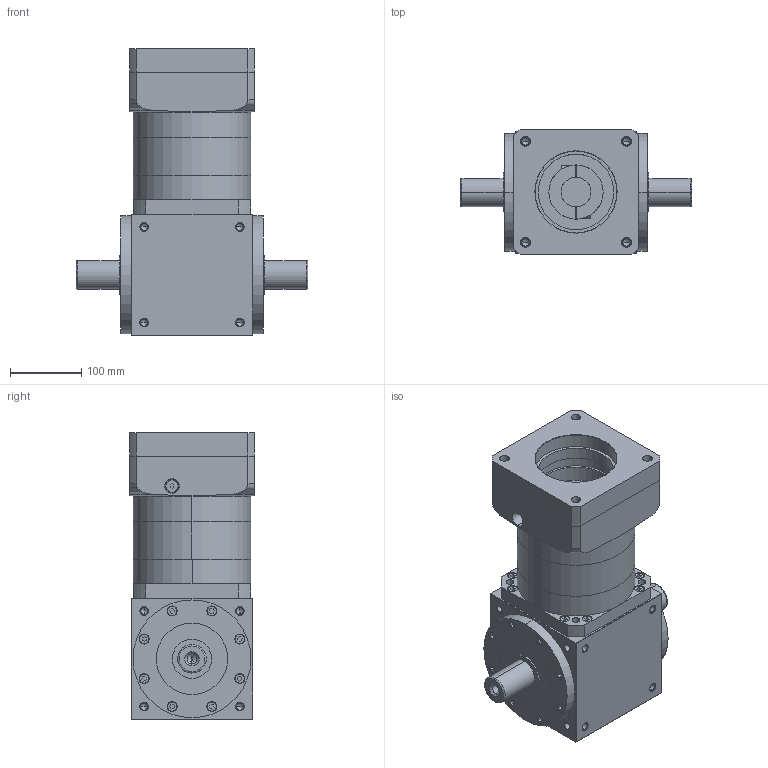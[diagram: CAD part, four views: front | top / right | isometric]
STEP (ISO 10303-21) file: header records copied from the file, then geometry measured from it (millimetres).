
FILE_DESCRIPTION (( 'STEP AP203' ), '1' );
FILE_NAME ('AT170-FL-L2-42-114.3-200M12.STEP', '2026-01-14T02:04:25', ( 'Windows User' ), ( 'P R C' ), 'SwSTEP 2.0', 'SolidWorks 2016', '' );
FILE_SCHEMA (( 'CONFIG_CONTROL_DESIGN' ));
Length unit declared in the file: millimetre
Products named in the file (6): AT170-转角箱体-双轴输出; AT170-蛌倰怀堤楊擘; AT170内齿圈108-1; AT170-输入法兰-A-42-80-114.3-M12-200; AT170樓綠啣-F1-綠33-饜113粣酗; AT170-FL-L2-42-114.3-200M12
Assembly tree (5 placements, depth 2):
  AT170-FL-L2-42-114.3-200M12
    AT170-转角箱体-双轴输出
    AT170-蛌倰怀堤楊擘
    AT170内齿圈108-1
    AT170-输入法兰-A-42-80-114.3-M12-200
    AT170樓綠啣-F1-綠33-饜113粣酗
Bounding box: 324 x 175 x 402 mm (x, y, z)
Volume: 8404142.7 mm3; surface area: 760446.3 mm2
Topology: 5 solids, 21 shells, 1594 faces, 4051 edges, 2538 vertices
Faces by surface type: plane 808, cylinder 372, cone 264, bspline 150
Entity records: 54419 total; most frequent: CARTESIAN_POINT 16809, ORIENTED_EDGE 7854, DIRECTION 7157, EDGE_CURVE 3927, LINE 2589, VECTOR 2589, VERTEX_POINT 2538, AXIS2_PLACEMENT_3D 2284
